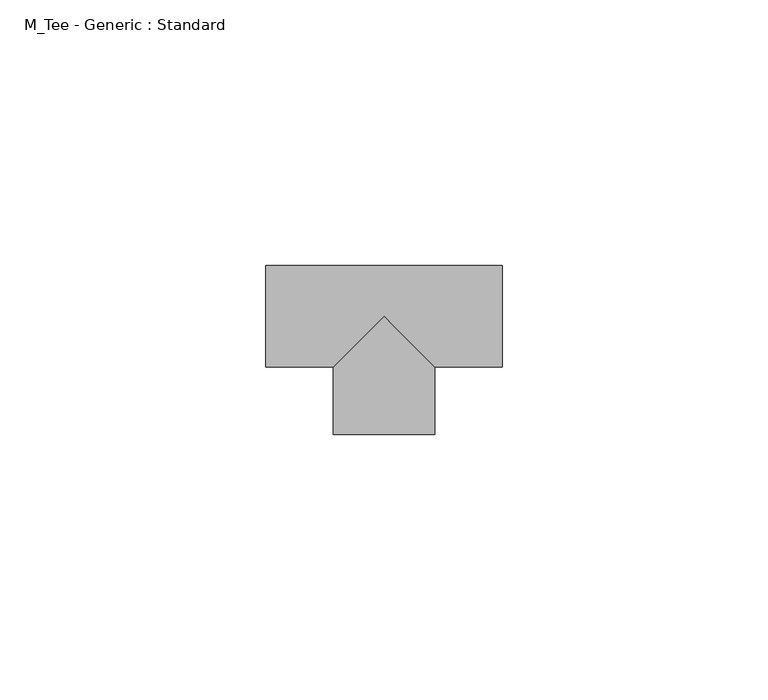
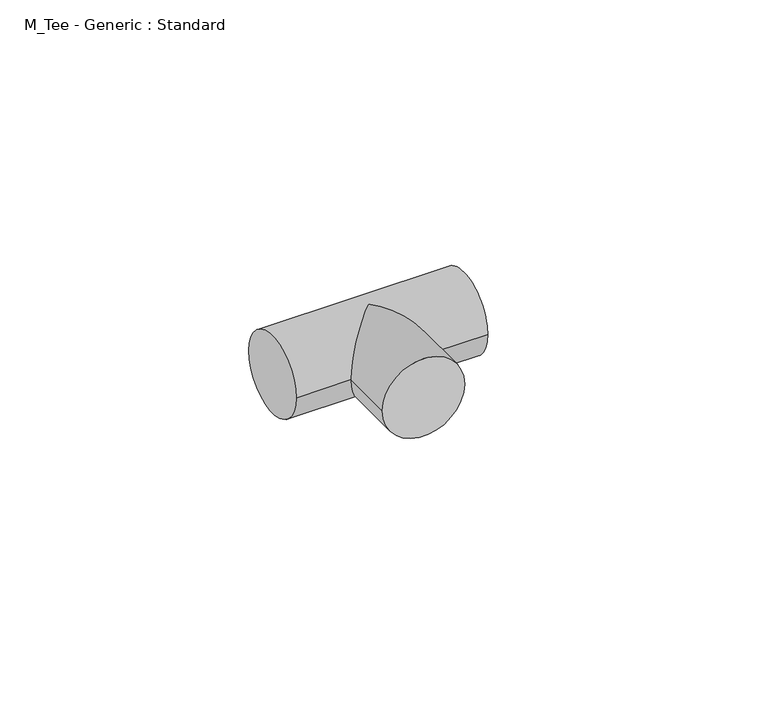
"""IFC4 building model written with IfcOpenShell, lengths in millimetres: pipe fitting geometry, M_Tee - Generic : Standard."""

import ifcopenshell
import ifcopenshell.guid

model = None  # the IFC model being written
_history = None  # IfcOwnerHistory: only IFC2X3 demands one
_inside = {}  # id of a spatial element -> (the spatial element, [elements in it])
_under = {}  # id of a project, library or spatial element -> (it, [spatial elements below it])
_declared = {}  # id of a project -> (the project, [libraries it declares])
_typed = {}  # id of a type object -> (the type object, [elements of that type])
_made_of = {}  # id of a material, layer set ... -> (it, [elements and type objects made of it])


def new_model(schema):
    """Start an empty IFC model of exactly this schema.

    Asked for "IFC4X3", IfcOpenShell would pick the latest addendum, in which some entities
    have other attributes; the version numbers below select the first issue.
    IFC2X3 requires an IfcOwnerHistory on every rooted entity: one is made here for all.
    """
    global model, _history
    if schema == "IFC4X3":
        model = ifcopenshell.file(schema_version=(4, 3, 0, 0))
    else:
        model = ifcopenshell.file(schema=schema)
    _inside.clear()
    _under.clear()
    _declared.clear()
    _typed.clear()
    _made_of.clear()
    _history = None
    if model.schema == "IFC2X3":
        org = make("IfcOrganization", Name="unknown")
        user = make(
            "IfcPersonAndOrganization",
            ThePerson=make("IfcPerson", FamilyName="unknown"),
            TheOrganization=org,
        )
        app = make(
            "IfcApplication",
            ApplicationDeveloper=org,
            Version="unknown",
            ApplicationFullName="unknown",
            ApplicationIdentifier="unknown",
        )
        _history = make(
            "IfcOwnerHistory",
            OwningUser=user,
            OwningApplication=app,
            ChangeAction="ADDED",
            CreationDate=0,
        )
    return model


def make(cls, **values):
    """One entity of the class cls with the attributes given. An attribute that is None is left unset."""
    return model.create_entity(
        cls, **{name: value for name, value in values.items() if value is not None}
    )


def rooted(cls, **values):
    """An entity with a GlobalId (a new one), such as an element, a storey or a relation."""
    return make(cls, GlobalId=ifcopenshell.guid.new(), OwnerHistory=_history, **values)


def si_unit(unit_type, name, prefix=None):
    """IfcSIUnit, for example si_unit("LENGTHUNIT", "METRE", prefix="MILLI")."""
    return make("IfcSIUnit", UnitType=unit_type, Prefix=prefix, Name=name)


def assignment(units):
    """IfcUnitAssignment: the units of a project."""
    return None if units is None else make("IfcUnitAssignment", Units=units)


def point(xyz):
    """IfcCartesianPoint."""
    return None if xyz is None else make("IfcCartesianPoint", Coordinates=xyz)


def direction(xyz):
    """IfcDirection."""
    return None if xyz is None else make("IfcDirection", DirectionRatios=xyz)


def frame(location, z_axis=None, x_axis=None):
    """IfcAxis2Placement3D, a coordinate frame: its origin and axes. An axis left out is left unset."""
    return make(
        "IfcAxis2Placement3D",
        Location=point(location),
        Axis=direction(z_axis),
        RefDirection=direction(x_axis),
    )


def origin():
    """The frame at (0, 0, 0) with its axes left unset."""
    return frame((0.0, 0.0, 0.0))


def place(relative_to, where):
    """IfcLocalPlacement: puts the frame where relative to a parent placement (None: the world)."""
    return make(
        "IfcLocalPlacement", PlacementRelTo=relative_to, RelativePlacement=where
    )


def context(
    kind, dimensions, precision=None, world=None, true_north=None, identifier=None
):
    """IfcGeometricRepresentationContext, for example the 3D "Model" context."""
    return make(
        "IfcGeometricRepresentationContext",
        ContextIdentifier=identifier,
        ContextType=kind,
        CoordinateSpaceDimension=dimensions,
        Precision=precision,
        WorldCoordinateSystem=world,
        TrueNorth=true_north,
    )


def project(units=None, contexts=None):
    """IfcProject with its units and contexts."""
    return rooted(
        "IfcProject",
        Name="project",
        RepresentationContexts=contexts,
        UnitsInContext=assignment(units),
    )


def spatial(cls, under=None, at=None, **own):
    """A site, building, storey or space (cls), placed at a placement, below another one or the project."""
    s = rooted(cls, ObjectPlacement=at, **own)
    if under is not None:
        _under.setdefault(under.id(), (under, []))[1].append(s)
    return s


def circle_curve(where, radius):
    """IfcCircle in the frame where."""
    return make("IfcCircle", Position=where, Radius=radius)


def ellipse_curve(where, semi_axis1, semi_axis2):
    """IfcEllipse in the frame where."""
    return make(
        "IfcEllipse", Position=where, SemiAxis1=semi_axis1, SemiAxis2=semi_axis2
    )


def shape(context_of_items, identifier, shape_type, items):
    """IfcShapeRepresentation: the items that make up one representation, for example the "Body"."""
    return make(
        "IfcShapeRepresentation",
        ContextOfItems=context_of_items,
        RepresentationIdentifier=identifier,
        RepresentationType=shape_type,
        Items=items,
    )


def source(mapping_origin, context_of_items, identifier, shape_type, items):
    """IfcRepresentationMap: a shape defined once, which mapped items show again and again."""
    return make(
        "IfcRepresentationMap",
        MappingOrigin=mapping_origin,
        MappedRepresentation=shape(context_of_items, identifier, shape_type, items),
    )


def transform(
    local_origin,
    x_axis=None,
    y_axis=None,
    z_axis=None,
    scale=None,
    scale2=None,
    scale3=None,
    uniform=True,
):
    """IfcCartesianTransformationOperator3D, or its non-uniform kind. x_axis, y_axis, z_axis: its Axis1, 2, 3."""
    if uniform:
        return make(
            "IfcCartesianTransformationOperator3D",
            Axis1=direction(x_axis),
            Axis2=direction(y_axis),
            LocalOrigin=point(local_origin),
            Scale=scale,
            Axis3=direction(z_axis),
        )
    return make(
        "IfcCartesianTransformationOperator3DnonUniform",
        Axis1=direction(x_axis),
        Axis2=direction(y_axis),
        LocalOrigin=point(local_origin),
        Scale=scale,
        Axis3=direction(z_axis),
        Scale2=scale2,
        Scale3=scale3,
    )


def mapped(mapping_source, mapping_target):
    """IfcMappedItem: shows the shape of a source again, moved by a transform."""
    return make(
        "IfcMappedItem", MappingSource=mapping_source, MappingTarget=mapping_target
    )


def made_of(thing, what):
    """Note that an element or type object is made of a material, layer set ...; save() writes the relation."""
    if what is not None:
        _made_of.setdefault(what.id(), (what, []))[1].append(thing)
    return thing


def element(
    cls,
    number,
    at=None,
    inside=None,
    cuts=None,
    type_object=None,
    material=None,
    context=None,
    identifier="Body",
    shape_type=None,
    held_by="IfcProductDefinitionShape",
    body=None,
    shapes=None,
    **own,
):
    """One element of the class cls, such as IfcWall. Its Tag is "e" and its number.

    at: its placement. inside: the storey or other place that contains it. cuts: it is an
    opening in that element (IfcRelVoidsElement). A single representation is given by context,
    identifier, shape_type and body (its items); several are given by shapes. held_by: the class
    of the entity that holds the representations. save() writes the other relations.
    """
    e = rooted(cls, Tag="e%d" % number, ObjectPlacement=at, **own)
    if body is not None:
        shapes = [shape(context, identifier, shape_type, body)]
    if shapes is not None:
        e.Representation = make(held_by, Representations=shapes)
    if inside is not None:
        _inside.setdefault(inside.id(), (inside, []))[1].append(e)
    if cuts is not None:
        rooted(
            "IfcRelVoidsElement", RelatingBuildingElement=cuts, RelatedOpeningElement=e
        )
    if type_object is not None:
        _typed.setdefault(type_object.id(), (type_object, []))[1].append(e)
    return made_of(e, material)


def aggregate(whole, parts):
    """IfcRelAggregates: a whole, such as a stair, and the parts it consists of."""
    return rooted("IfcRelAggregates", RelatingObject=whole, RelatedObjects=parts)


def save(model, path):
    """Write the relations noted so far, then the file.

    IfcRelAggregates (storeys below a building ...), IfcRelContainedInSpatialStructure (elements
    in a storey), IfcRelDefinesByType, IfcRelAssociatesMaterial and IfcRelDeclares: one each for
    every whole, place, type object, material and project.
    """
    for whole, parts in _under.values():
        aggregate(whole, parts)
    for where, things in _inside.values():
        rooted(
            "IfcRelContainedInSpatialStructure",
            RelatedElements=things,
            RelatingStructure=where,
        )
    for kind, things in _typed.values():
        rooted("IfcRelDefinesByType", RelatedObjects=things, RelatingType=kind)
    for what, things in _made_of.values():
        rooted("IfcRelAssociatesMaterial", RelatedObjects=things, RelatingMaterial=what)
    for by, libraries in _declared.values():
        rooted("IfcRelDeclares", RelatingContext=by, RelatedDefinitions=libraries)
    model.write(path)


def plane_surface(at):
    """IfcPlane: the flat surface through the origin of the frame at, square to its z axis."""
    return make("IfcPlane", Position=at)


def cylinder_surface(at, radius):
    """IfcCylindricalSurface: all points at the distance radius from the z axis of the frame at."""
    return make("IfcCylindricalSurface", Position=at, Radius=radius)


def advanced_brep(points, edges, surfaces, faces):
    """IfcAdvancedBrep: a solid bounded by faces that lie on surfaces and meet in shared edges.

    An edge is (start, end): straight between two places in points (the first is 0);
    or (start, end, curve); or (start, end, curve, False) where it runs against its curve.
    A face is (place in surfaces, loops), or (place, loops, False) where it looks against
    its surface's normal. A loop lists edges by number (the first is 1), with a minus sign
    where the edge is run from its end to its start. The first loop is the outer one.
    """
    corners = [point(p) for p in points]
    vertices = [make("IfcVertexPoint", VertexGeometry=c) for c in corners]
    made = []
    for start, end, *more in edges:
        made.append(
            make(
                "IfcEdgeCurve",
                EdgeStart=vertices[start],
                EdgeEnd=vertices[end],
                EdgeGeometry=more[0] if more else make("IfcPolyline", Points=[corners[start], corners[end]]),
                SameSense=more[1] if len(more) > 1 else True,
            )
        )
    hull = []
    for where, loops, *sense in faces:
        bounds = []
        for j, loop in enumerate(loops):
            ring = [make("IfcOrientedEdge", EdgeElement=made[abs(k) - 1], Orientation=k > 0) for k in loop]
            bounds.append(
                make(
                    "IfcFaceOuterBound" if j == 0 else "IfcFaceBound",
                    Bound=make("IfcEdgeLoop", EdgeList=ring),
                    Orientation=True,
                )
            )
        hull.append(make("IfcAdvancedFace", Bounds=bounds, FaceSurface=surfaces[where], SameSense=sense[0] if sense else True))
    return make("IfcAdvancedBrep", Outer=make("IfcClosedShell", CfsFaces=hull))


def m_tee_generic_standard_cdc1cff5(model_context):
    return source(origin(), model_context, "Body", "AdvancedBrep", [
        advanced_brep(
        [(-22.225, -9.525, 0.0), (-22.225, 9.525, 0.0), (22.225, -9.525, 0.0), (22.225, 9.525, 0.0), (-9.525, -9.525, 0.0), (0.0, 0.0, 9.525), (9.525, -9.525, 0.0), (0.0, 0.0, -9.525), (-9.525, -22.225, 0.0), (9.525, -22.225, 0.0)],
        [
            (0, 1, circle_curve(frame((-22.225, 0.0, 0.0), z_axis=(-1.0, 0.0, 0.0), x_axis=(0.0, 1.0, 0.0)), 9.525)),
            (1, 0, circle_curve(frame((-22.225, 0.0, 0.0), z_axis=(-1.0, 0.0, 0.0), x_axis=(0.0, 1.0, 0.0)), 9.525)),
            (2, 3, circle_curve(frame((22.225, 0.0, 0.0), z_axis=(1.0, 0.0, 0.0), x_axis=(0.0, 1.0, 0.0)), 9.525)),
            (3, 2, circle_curve(frame((22.225, 0.0, 0.0), z_axis=(1.0, 0.0, 0.0), x_axis=(0.0, 1.0, 0.0)), 9.525)),
            (0, 4),
            (4, 5, ellipse_curve(frame((0.0, 0.0, 0.0), z_axis=(-0.707106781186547, 0.7071067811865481, 0.0), x_axis=(-0.707106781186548, -0.707106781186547, 0.0)), 13.4703842, 9.525)),
            (5, 6, ellipse_curve(frame((0.0, 0.0, 0.0), z_axis=(0.707106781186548, 0.7071067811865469, 0.0), x_axis=(-0.707106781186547, 0.707106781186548, 0.0)), 13.4703842, 9.525)),
            (6, 2),
            (3, 1),
            (6, 7, ellipse_curve(frame((0.0, 0.0, 0.0), z_axis=(0.707106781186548, 0.7071067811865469, 0.0), x_axis=(-0.707106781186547, 0.707106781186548, 0.0)), 13.4703842, 9.525)),
            (7, 4, ellipse_curve(frame((0.0, 0.0, 0.0), z_axis=(-0.707106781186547, 0.7071067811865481, 0.0), x_axis=(-0.707106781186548, -0.707106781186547, 0.0)), 13.4703842, 9.525)),
            (8, 9, circle_curve(frame((0.0, -22.225, 0.0), z_axis=(0.0, -1.0, 0.0), x_axis=(1.0, 0.0, 0.0)), 9.525)),
            (9, 8, circle_curve(frame((0.0, -22.225, 0.0), z_axis=(0.0, -1.0, 0.0), x_axis=(1.0, 0.0, 0.0)), 9.525)),
            (9, 6),
            (4, 8),
        ],
        [
            plane_surface(frame((-22.225, 0.0, 0.0), z_axis=(-1.0, 0.0, 0.0), x_axis=(0.0, 0.0, 1.0))),
            plane_surface(frame((22.225, 0.0, 0.0), z_axis=(1.0, 0.0, 0.0), x_axis=(0.0, 0.0, 1.0))),
            cylinder_surface(frame((-22.225, 0.0, 0.0), z_axis=(-1.0, 0.0, 0.0), x_axis=(0.0, 1.0, 0.0)), 9.525),
            plane_surface(frame((0.0, -22.225, 0.0), z_axis=(0.0, -1.0, 0.0), x_axis=(0.0, 0.0, 1.0))),
            cylinder_surface(frame((0.0, 0.0, 0.0), z_axis=(0.0, 1.0, 0.0), x_axis=(1.0, 0.0, 0.0)), 9.525),
        ],
        [
            (0, [[1, 2]]),
            (1, [[3, 4]]),
            (2, [[-1, 5, 6, 7, 8, -4, 9]]),
            (2, [[-2, -9, -3, -8, 10, 11, -5]]),
            (3, [[12, 13]]),
            (4, [[-13, 14, -7, -6, 15]]),
            (4, [[-12, -15, -11, -10, -14]]),
        ],
    ),
    ])


if __name__ == "__main__":
    model = new_model("IFC4")
    model_context = context("Model", 3, world=origin())
    ifc_project = project(units=[si_unit("LENGTHUNIT", "METRE", prefix="MILLI")], contexts=[model_context])
    site = spatial("IfcSite", under=ifc_project)
    building = spatial("IfcBuilding", under=site)
    placement = place(None, origin())
    m_tee_generic_standard_shape = m_tee_generic_standard_cdc1cff5(model_context)
    element("IfcPipeFitting", 1, ObjectType="M_Tee - Generic : Standard", at=placement, inside=building, context=model_context, shape_type="MappedRepresentation", body=[
        mapped(m_tee_generic_standard_shape, transform((0.0, 0.0, 0.0), x_axis=(1.0, 0.0, 0.0), y_axis=(0.0, 1.0, 0.0), z_axis=(0.0, 0.0, 1.0))),
    ])
    save(model, "model.ifc")
